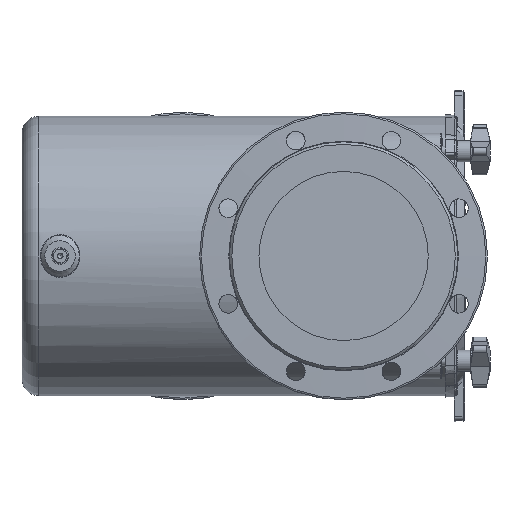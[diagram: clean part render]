
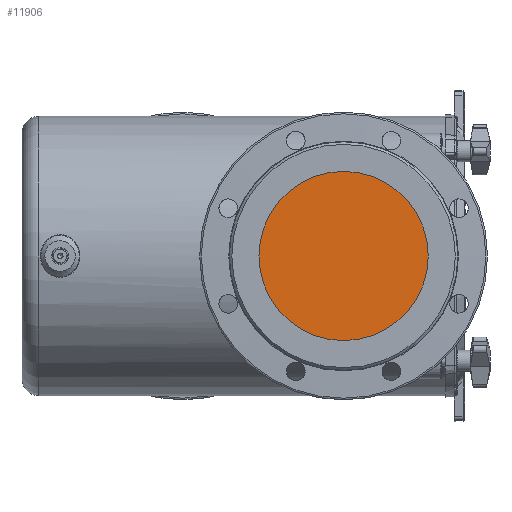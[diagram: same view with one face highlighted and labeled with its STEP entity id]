
A CAD part, left-side view. The second image highlights one B-rep face of the part: STEP entity #11906.
In plain terms, the highlighted planar face has unit normal (-1, 0, 0).
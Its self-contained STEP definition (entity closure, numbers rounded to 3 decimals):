
#1414=PLANE('',#12483);
#1653=ORIENTED_EDGE('',*,*,#4012,.F.);
#4012=EDGE_CURVE('',#5197,#5197,#5971,.T.);
#5197=VERTEX_POINT('',#15691);
#5971=CIRCLE('',#12484,100.);
#6444=EDGE_LOOP('',(#1653));
#7170=FACE_BOUND('',#6444,.T.);
#11906=ADVANCED_FACE('',(#7170),#1414,.F.);
#12483=AXIS2_PLACEMENT_3D('',#15689,#13458,#13459);
#12484=AXIS2_PLACEMENT_3D('',#15690,#13460,#13461);
#13458=DIRECTION('',(1.,0.,0.));
#13459=DIRECTION('',(0.,0.,-1.));
#13460=DIRECTION('',(1.,0.,0.));
#13461=DIRECTION('',(0.,0.,-1.));
#15689=CARTESIAN_POINT('',(-215.,123.,0.));
#15690=CARTESIAN_POINT('',(-215.,123.,0.));
#15691=CARTESIAN_POINT('',(-215.,123.,-100.));
